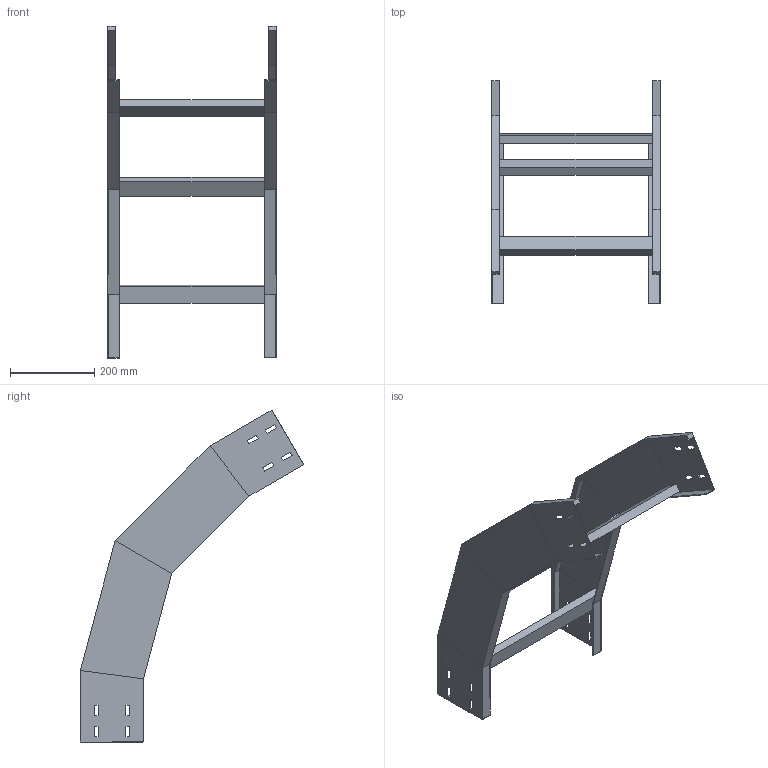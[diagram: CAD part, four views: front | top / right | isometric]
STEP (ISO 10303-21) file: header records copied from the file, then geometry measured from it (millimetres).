
FILE_DESCRIPTION (( 'STEP AP214' ), '1' );
FILE_NAME ('41J5F400.step', '2025-02-21T16:22:34', ( '' ), ( '' ), 'SwSTEP 2.0', 'SolidWorks 2023', '' );
FILE_SCHEMA (( 'AUTOMOTIVE_DESIGN' ));
Length unit declared in the file: millimetre
Products named in the file (3): TRAVERSINO_400; LONGH.DISCESA_60°_H150_R500; 41J5F400
Assembly tree (5 placements, depth 2):
  41J5F400
    LONGH.DISCESA_60°_H150_R500  x2
    TRAVERSINO_400  x3
Bounding box: 400 x 530.08 x 788.22 mm (x, y, z)
Volume: 1948463.6 mm3; surface area: 835596.7 mm2
Topology: 5 solids, 5 shells, 150 faces, 372 edges, 232 vertices
Faces by surface type: plane 150
Entity records: 2216 total; most frequent: CARTESIAN_POINT 372, ORIENTED_EDGE 360, DIRECTION 340, LINE 180, VECTOR 180, EDGE_CURVE 180, VERTEX_POINT 112, EDGE_LOOP 88
